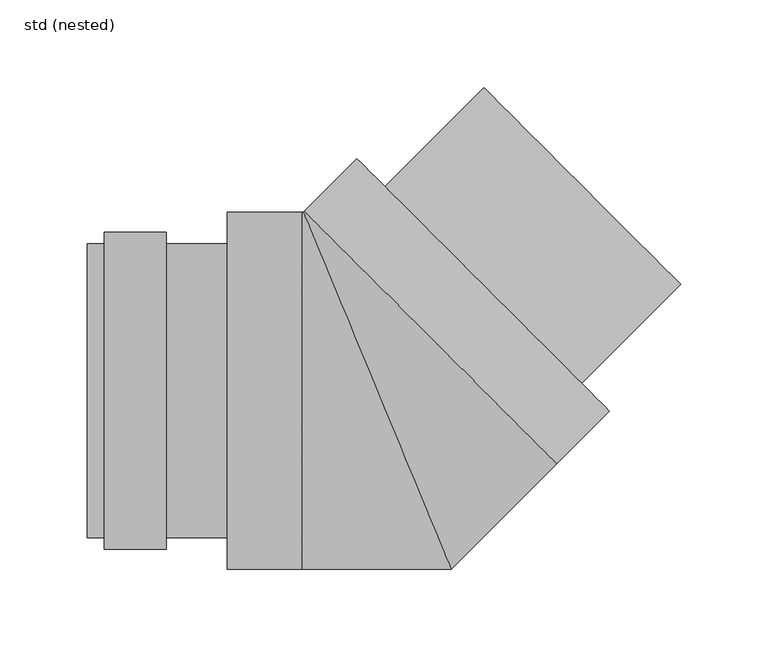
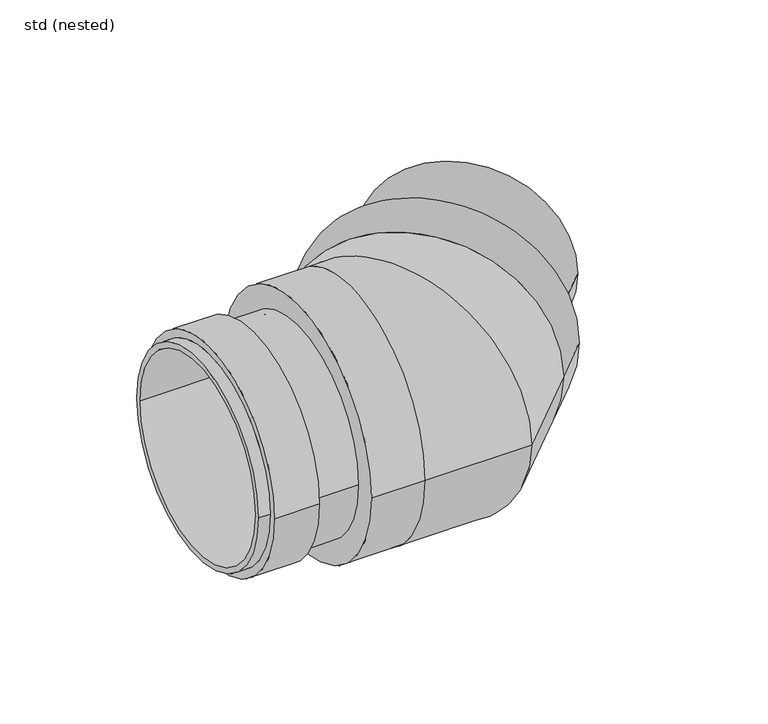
"""IFC4 building model written with IfcOpenShell, lengths in millimetres: pipe fitting geometry, ZZZ_do not use_PIF_ST_WPB_GM-X compound pipe bend_ACO : std (nested)."""

from ifc_helpers import new_model, si_unit, point, frame, frame_2d, origin, place, context, project, spatial, polyline, circle_curve, ellipse_curve, trimmed, segment, composite_curve, outline, extrude, source, transform, mapped, element, save
from ifc_brep_helpers import plane_surface, cylinder_surface, revolved_surface, advanced_brep


def std_nested_2c747ea0(model_context):
    return source(origin(), model_context, "Body", "SolidModel", [
        advanced_brep(
        [(-156.1, -90.5, 0.0), (-156.1, 90.5, 0.0), (-120.6, 90.5, 0.0), (-120.6, -90.5, 0.0), (-165.6, 84.0, 0.0), (-165.6, -84.0, 0.0), (-165.6, -79.5, 0.0), (-165.6, 79.5, 0.0), (-85.6, 84.0, 0.0), (-85.6, -84.0, 0.0), (-85.6, 79.5, 0.0), (-85.6, -79.5, 0.0), (-156.1, 84.0, 0.0), (-156.1, -84.0, 0.0), (-120.6, -84.0, 0.0), (-120.6, 84.0, 0.0)],
        [
            (0, 1, circle_curve(frame((-156.1, 0.0, 0.0), z_axis=(1.0, 0.0, 0.0), x_axis=(0.0, -1.0, 0.0)), 90.5)),
            (1, 2),
            (2, 3, circle_curve(frame((-120.6, 0.0, 0.0), z_axis=(-1.0, 0.0, 0.0), x_axis=(0.0, -1.0, 0.0)), 90.5)),
            (3, 0),
            (1, 0, circle_curve(frame((-156.1, 0.0, 0.0), z_axis=(1.0, 0.0, 0.0), x_axis=(0.0, -1.0, 0.0)), 90.5)),
            (3, 2, circle_curve(frame((-120.6, 0.0, 0.0), z_axis=(-1.0, 0.0, 0.0), x_axis=(0.0, -1.0, 0.0)), 90.5)),
            (4, 5, circle_curve(frame((-165.6, 0.0, 0.0), z_axis=(-1.0, 0.0, 0.0), x_axis=(0.0, -1.0, 0.0)), 84.0)),
            (5, 4, circle_curve(frame((-165.6, 0.0, 0.0), z_axis=(-1.0, 0.0, 0.0), x_axis=(0.0, -1.0, 0.0)), 84.0)),
            (6, 7, circle_curve(frame((-165.6, 0.0, 0.0), z_axis=(1.0, 0.0, 0.0), x_axis=(0.0, -1.0, 0.0)), 79.5)),
            (7, 6, circle_curve(frame((-165.6, 0.0, 0.0), z_axis=(1.0, 0.0, 0.0), x_axis=(0.0, -1.0, 0.0)), 79.5)),
            (8, 9, circle_curve(frame((-85.6, 0.0, 0.0), z_axis=(1.0, 0.0, 0.0), x_axis=(0.0, -1.0, 0.0)), 84.0)),
            (9, 8, circle_curve(frame((-85.6, 0.0, 0.0), z_axis=(1.0, 0.0, 0.0), x_axis=(0.0, -1.0, 0.0)), 84.0)),
            (10, 11, circle_curve(frame((-85.6, 0.0, 0.0), z_axis=(-1.0, 0.0, 0.0), x_axis=(0.0, -1.0, 0.0)), 79.5)),
            (11, 10, circle_curve(frame((-85.6, 0.0, 0.0), z_axis=(-1.0, 0.0, 0.0), x_axis=(0.0, -1.0, 0.0)), 79.5)),
            (4, 12),
            (12, 13, circle_curve(frame((-156.1, 0.0, 0.0), z_axis=(-1.0, 0.0, 0.0), x_axis=(0.0, -1.0, 0.0)), 84.0)),
            (13, 5),
            (9, 14),
            (14, 15, circle_curve(frame((-120.6, 0.0, 0.0), z_axis=(1.0, 0.0, 0.0), x_axis=(0.0, -1.0, 0.0)), 84.0)),
            (15, 8),
            (13, 12, circle_curve(frame((-156.1, 0.0, 0.0), z_axis=(-1.0, 0.0, 0.0), x_axis=(0.0, -1.0, 0.0)), 84.0)),
            (15, 14, circle_curve(frame((-120.6, 0.0, 0.0), z_axis=(1.0, 0.0, 0.0), x_axis=(0.0, -1.0, 0.0)), 84.0)),
            (6, 11),
            (10, 7),
        ],
        [
            cylinder_surface(frame((-120.6, 0.0, 0.0), z_axis=(-1.0, 0.0, 0.0), x_axis=(0.0, -1.0, 0.0)), 90.5),
            plane_surface(frame((-165.6, -84.0, 0.0), z_axis=(-1.0, 0.0, 0.0), x_axis=(0.0, 0.0, 1.0))),
            plane_surface(frame((-85.6, -84.0, 0.0), z_axis=(1.0, 0.0, 0.0), x_axis=(0.0, 0.0, -1.0))),
            cylinder_surface(frame((-85.6, 0.0, 0.0), z_axis=(-1.0, 0.0, 0.0), x_axis=(0.0, -1.0, 0.0)), 84.0),
            revolved_surface(polyline([(-165.6, -79.5, 0.0), (-85.6, -79.5, 0.0)]), (-85.6, 0.0, 0.0), (-1.0, 0.0, 0.0)),
            plane_surface(frame((-156.1, -90.5, 0.0), z_axis=(-1.0, 0.0, 0.0), x_axis=(0.0, 0.0, 1.0))),
            plane_surface(frame((-120.6, -90.5, 0.0), z_axis=(1.0, 0.0, 0.0), x_axis=(0.0, 0.0, -1.0))),
        ],
        [
            (0, [[1, 2, 3, 4]]),
            (0, [[5, -4, 6, -2]]),
            (1, [[7, 8], [9, 10]]),
            (2, [[11, 12], [13, 14]]),
            (3, [[-7, 15, 16, 17]]),
            (3, [[-12, 18, 19, 20]]),
            (3, [[-8, -17, 21, -15]]),
            (3, [[-11, -20, 22, -18]]),
            (4, [[23, -13, 24, -9]]),
            (4, [[-23, -10, -24, -14]]),
            (5, [[-1, -5], [-16, -21]]),
            (6, [[-6, -3], [-19, -22]]),
        ],
    ),
        extrude(outline(composite_curve([segment(trimmed(circle_curve(frame_2d((0.0, -79.5)), 79.5), [point((0.0, -159.0))], [point((0.0, 0.0))], False, "CARTESIAN"), True, "CONTINUOUS"), segment(trimmed(circle_curve(frame_2d((0.0, -79.5)), 79.5), [point((0.0, 0.0))], [point((0.0, -159.0))], False, "CARTESIAN"), True, "CONTINUOUS")], self_intersect=False)), frame((116.7433296, 4.3133514, 0.0), z_axis=(0.7071067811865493, 0.7071067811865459, 0.0), x_axis=(0.0, 0.0, 1.0)), (0.0, 0.0, 1.0), 80.0),
        advanced_brep(
        [(-43.0782105, -102.0, 0.0), (-43.0782105, 102.0, 0.0), (-85.6, 102.0, 0.0), (-85.6, -102.0, 0.0), (42.2497834, -102.0, 0.0), (-42.2497834, 102.0, 0.0), (102.5857864, -41.6639969, 0.0), (-41.6639969, 102.5857864, 0.0), (-11.5965512, 132.6532322, 0.0), (132.6532322, -11.5965512, 0.0)],
        [
            (0, 1, circle_curve(frame((-43.0782105, 0.0, 0.0), z_axis=(-1.0, 0.0, 0.0), x_axis=(0.0, 1.0, 0.0)), 102.0)),
            (1, 2),
            (2, 3, circle_curve(frame((-85.6, 0.0, 0.0), z_axis=(1.0, 0.0, 0.0), x_axis=(0.0, 1.0, 0.0)), 102.0)),
            (3, 0),
            (1, 0, circle_curve(frame((-43.0782105, 0.0, 0.0), z_axis=(-1.0, 0.0, 0.0), x_axis=(0.0, 1.0, 0.0)), 102.0)),
            (3, 2, circle_curve(frame((-85.6, 0.0, 0.0), z_axis=(1.0, 0.0, 0.0), x_axis=(0.0, 1.0, 0.0)), 102.0)),
            (0, 4),
            (4, 5, ellipse_curve(frame((0.0, 0.0, 0.0), z_axis=(-0.9238795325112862, -0.3826834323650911, 0.0), x_axis=(-0.38268343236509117, 0.9238795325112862, 0.0)), 110.4040044, 102.0)),
            (5, 1),
            (5, 4, ellipse_curve(frame((0.0, 0.0, 0.0), z_axis=(-0.9238795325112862, -0.3826834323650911, 0.0), x_axis=(-0.38268343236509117, 0.9238795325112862, 0.0)), 110.4040044, 102.0)),
            (4, 6),
            (6, 7, circle_curve(frame((30.4608948, 30.4608948, 0.0), z_axis=(-0.7071067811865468, -0.7071067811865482, 0.0), x_axis=(-0.7071067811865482, 0.7071067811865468, 0.0)), 102.0)),
            (7, 5),
            (7, 6, circle_curve(frame((30.4608948, 30.4608948, 0.0), z_axis=(-0.7071067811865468, -0.7071067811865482, 0.0), x_axis=(-0.7071067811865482, 0.7071067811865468, 0.0)), 102.0)),
            (8, 9, circle_curve(frame((60.5283405, 60.5283405, 0.0), z_axis=(0.7071067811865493, 0.7071067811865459, 0.0), x_axis=(0.7071067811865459, -0.7071067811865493, 0.0)), 102.0)),
            (9, 8, circle_curve(frame((60.5283405, 60.5283405, 0.0), z_axis=(0.7071067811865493, 0.7071067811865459, 0.0), x_axis=(0.7071067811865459, -0.7071067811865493, 0.0)), 102.0)),
            (6, 9),
            (8, 7),
        ],
        [
            cylinder_surface(frame((-43.0782105, 0.0, 0.0), z_axis=(-1.0, 0.0, 0.0), x_axis=(0.0, 1.0, 0.0)), 102.0),
            cylinder_surface(frame((0.0, 0.0, 0.0), z_axis=(-0.7071067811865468, -0.7071067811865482, 0.0), x_axis=(-0.7071067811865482, 0.7071067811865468, 0.0)), 102.0),
            plane_surface(frame((-85.6, 102.0, 0.0), z_axis=(-1.0, 0.0, 0.0), x_axis=(0.0, 0.0, 1.0))),
            plane_surface(frame((132.6532322, -11.5965512, 0.0), z_axis=(0.7071067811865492, 0.7071067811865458, 0.0), x_axis=(0.0, 0.0, 1.0))),
            cylinder_surface(frame((30.4608948, 30.4608948, 0.0), z_axis=(0.7071067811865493, 0.7071067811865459, 0.0), x_axis=(0.7071067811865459, -0.7071067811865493, 0.0)), 102.0),
        ],
        [
            (0, [[1, 2, 3, 4]]),
            (0, [[5, -4, 6, -2]]),
            (0, [[7, 8, 9, -1]]),
            (0, [[-7, -5, -9, 10]]),
            (1, [[-8, 11, 12, 13]]),
            (1, [[-10, -13, 14, -11]]),
            (2, [[-3, -6]]),
            (3, [[15, 16]]),
            (4, [[-12, 17, -15, 18]]),
            (4, [[-14, -18, -16, -17]]),
        ],
    ),
    ])


if __name__ == "__main__":
    model = new_model("IFC4")
    model_context = context("Model", 3, world=origin())
    ifc_project = project(units=[si_unit("LENGTHUNIT", "METRE", prefix="MILLI")], contexts=[model_context])
    site = spatial("IfcSite", under=ifc_project)
    building = spatial("IfcBuilding", under=site)
    placement = place(None, origin())
    std_nested_shape = std_nested_2c747ea0(model_context)
    element("IfcPipeFitting", 1, ObjectType="ZZZ_do not use_PIF_ST_WPB_GM-X compound pipe bend_ACO : std (nested)", at=placement, inside=building, context=model_context, shape_type="MappedRepresentation", body=[
        mapped(std_nested_shape, transform((0.0, 0.0, 0.0), x_axis=(1.0, 0.0, 0.0), y_axis=(0.0, 1.0, 0.0), z_axis=(0.0, 0.0, 1.0))),
    ])
    save(model, "model.ifc")
